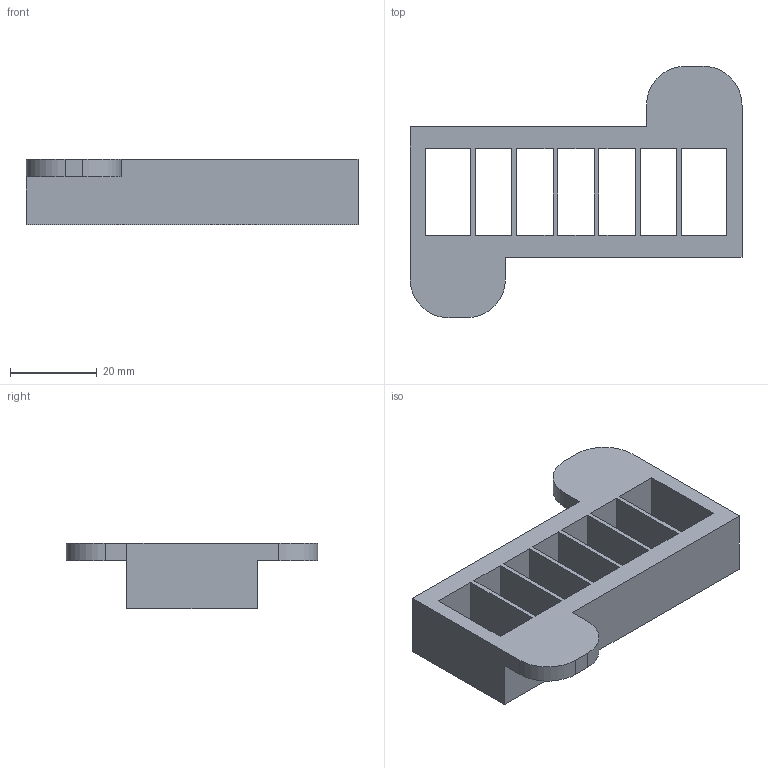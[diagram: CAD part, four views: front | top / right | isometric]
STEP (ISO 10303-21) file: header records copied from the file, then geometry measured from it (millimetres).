
FILE_DESCRIPTION(/* description */ (''),/* implementation_level */ '2;1');
FILE_NAME(/* name */ 'Cavity7CT v1.step',/* time_stamp */ '2024-07-04T14:22:35+05:30',/* author */ (''),/* organization */ (''),/* preprocessor_version */ 'ST-DEVELOPER v20',/* originating_system */ 'Autodesk Translation Framework v13.14.0.145',/* authorisation */ '');
FILE_SCHEMA (('AUTOMOTIVE_DESIGN { 1 0 10303 214 3 1 1 }'));
Length unit declared in the file: millimetre
Products named in the file (1): Cavity7CT
Bounding box: 76.5 x 58 x 15 mm (x, y, z)
Volume: 17200.9 mm3; surface area: 11921.1 mm2
Topology: 1 solids, 1 shells, 38 faces, 126 edges, 84 vertices
Faces by surface type: plane 34, cylinder 4
Entity records: 1419 total; most frequent: ORIENTED_EDGE 252, CARTESIAN_POINT 249, DIRECTION 212, EDGE_CURVE 126, LINE 118, VECTOR 118, VERTEX_POINT 84, AXIS2_PLACEMENT_3D 47
